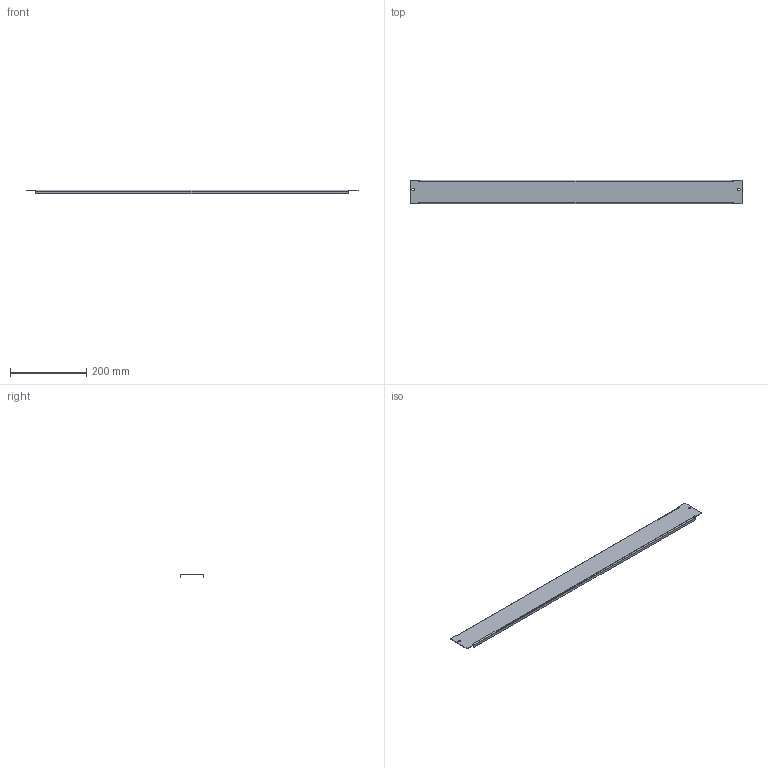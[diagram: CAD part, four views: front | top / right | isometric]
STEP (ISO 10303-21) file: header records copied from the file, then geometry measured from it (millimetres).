
FILE_DESCRIPTION(('STEP AP203'), '1');
FILE_NAME('Ïëàñòðîíû êîìïåíñàöèîííûå ãëóõèå 65õ1000 ìì OptiBox M (2 øò) 419561 ÊÝÀÇ', '', ('UNSPECIFIED'), ('UNSPECIFIED'), 'C3D Converter', 'C3D Toolkit', '');
FILE_SCHEMA(('CONFIG_CONTROL_DESIGN'));
Length unit declared in the file: millimetre
Bounding box: 872 x 63 x 10 mm (x, y, z)
Volume: 94111.4 mm3; surface area: 137196.3 mm2
Topology: 1 solids, 1 shells, 36 faces, 86 edges, 52 vertices
Faces by surface type: plane 30, cylinder 6
Full cylindrical faces by diameter (mm): 6.3 x2
Entity records: 1052 total; most frequent: CARTESIAN_POINT 173, DIRECTION 170, ORIENTED_EDGE 168, EDGE_CURVE 84, LINE 72, VECTOR 72, VERTEX_POINT 52, AXIS2_PLACEMENT_3D 49
